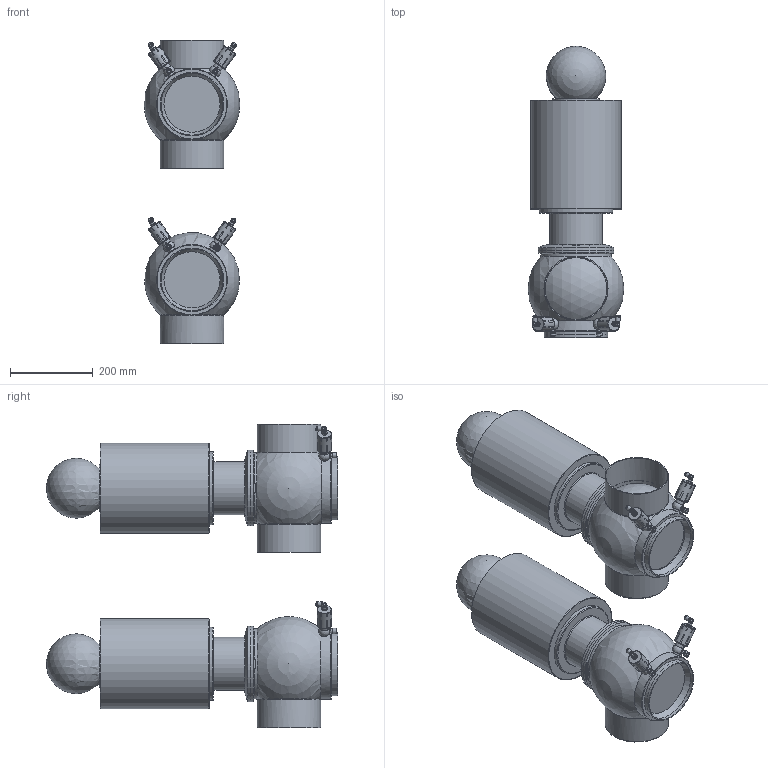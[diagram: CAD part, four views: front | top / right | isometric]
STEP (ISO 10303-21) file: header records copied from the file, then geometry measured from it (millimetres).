
FILE_DESCRIPTION(/* description */ (''),/* implementation_level */ '2;1');
FILE_NAME(/* name */ 'C:\Users\marz-m\Downloads\BZZAW3 3D STEP\BZAW3-DN150-SAL.stp',/* time_stamp */ '2018-09-26T16:51:58+02:00',/* author */ ('marz-m'),/* organization */ (''),/* preprocessor_version */ 'ST-DEVELOPER v17',/* originating_system */ 'Autodesk Inventor 2018',/* authorisation */ '');
FILE_SCHEMA (('AUTOMOTIVE_DESIGN { 1 0 10303 214 3 1 1 }'));
Length unit declared in the file: millimetre
Products named in the file (7): BZAW3-DN150-SAL; TRH5A0150BBA; SAGOMA-GIOTTO-; CIL134; TRH6A0150BBA; Assemblaggio-DN0100; Valvolina 3A
Assembly tree (12 placements, depth 2):
  BZAW3-DN150-SAL
    Valvolina 3A  x4
    SAGOMA-GIOTTO-  x2
    CIL134  x2
    Assemblaggio-DN0100  x2
    TRH5A0150BBA
    TRH6A0150BBA
Bounding box: 232 x 705.47 x 735.48 mm (x, y, z)
Volume: 38874472.7 mm3; surface area: 1542423.3 mm2
Topology: 12 solids, 12 shells, 614 faces, 1755 edges, 1235 vertices
Faces by surface type: plane 283, cylinder 187, cone 66, bspline 48, torus 19, sphere 11
Full cylindrical faces by diameter (mm): 2 x8, 6 x16, 7 x4, 8 x4, 8.1 x4, 10 x4, 11 x4, 11.5 x4, 12.918 x4, 13.157 x4, 14 x4, 15.9 x4, 16 x4, 22 x4, 35 x4, 113.8 x2, 128 x2, 136 x1, 150 x5, 154 x5, 171 x4, 178 x2, 183 x4, 219 x2
Entity records: 9975 total; most frequent: CARTESIAN_POINT 3742, DIRECTION 1257, ORIENTED_EDGE 1220, EDGE_CURVE 610, AXIS2_PLACEMENT_3D 524, VERTEX_POINT 439, CIRCLE 291, EDGE_LOOP 259
